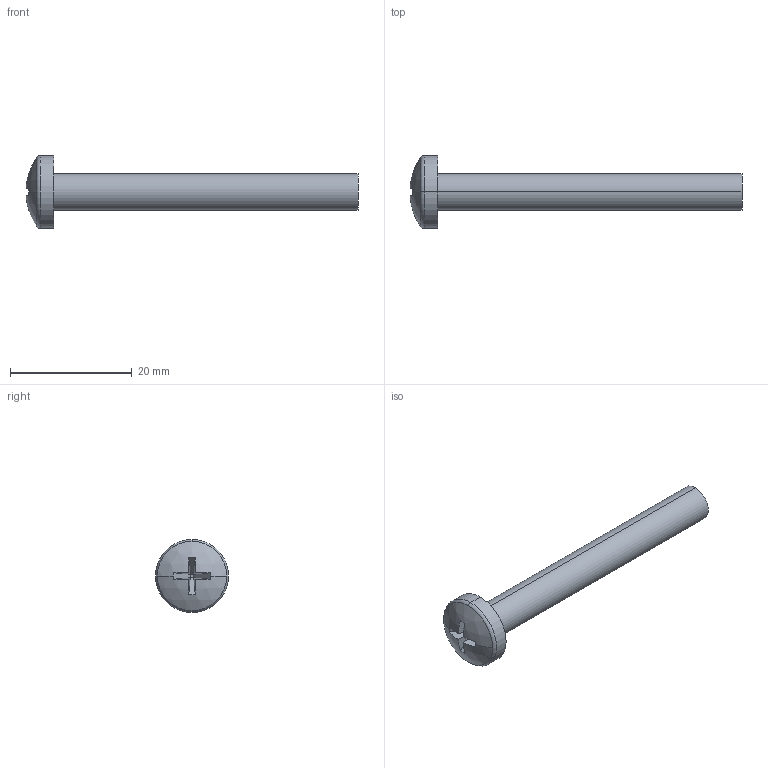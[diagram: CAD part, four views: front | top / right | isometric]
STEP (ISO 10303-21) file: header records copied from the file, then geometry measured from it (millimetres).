
FILE_DESCRIPTION (( 'STEP AP203' ), '1' );
FILE_NAME ('Vis à tête cylindrique M6x50 - Z.STEP', '2008-12-31T14:45:23', ( 'CLAUDE' ), ( 'Hewlett-Packard Company' ), 'SwSTEP 2.0', 'SolidWorks 2005143', '' );
FILE_SCHEMA (( 'CONFIG_CONTROL_DESIGN' ));
Length unit declared in the file: millimetre
Products named in the file (1): Vis à tête cylindrique M6x50 - Z
Bounding box: 54.57 x 12 x 12 mm (x, y, z)
Volume: 1803.1 mm3; surface area: 1318.2 mm2
Topology: 1 solids, 1 shells, 23 faces, 50 edges, 30 vertices
Faces by surface type: plane 15, cylinder 4, torus 2, sphere 2
Entity records: 711 total; most frequent: DIRECTION 128, CARTESIAN_POINT 104, ORIENTED_EDGE 100, AXIS2_PLACEMENT_3D 54, EDGE_CURVE 50, CIRCLE 30, VERTEX_POINT 30, EDGE_LOOP 24
